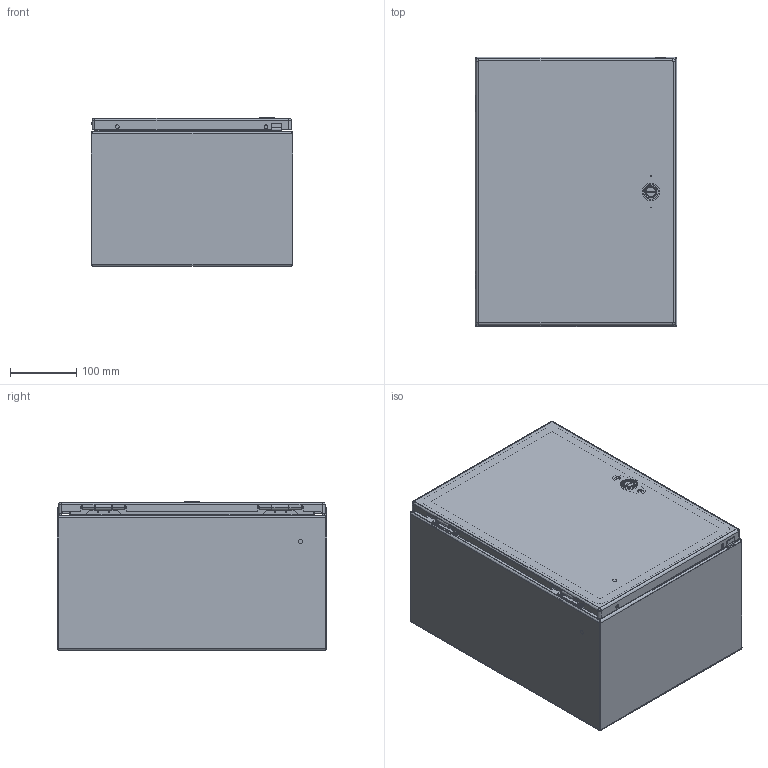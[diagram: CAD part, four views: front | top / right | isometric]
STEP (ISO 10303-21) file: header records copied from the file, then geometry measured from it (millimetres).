
FILE_DESCRIPTION (( 'STEP AP203' ), '1' );
FILE_NAME ('csd16128.STEP', '2012-05-21T19:13:18', ( 'User' ), ( 'Pentair Inc' ), 'SwSTEP 2.0', 'SolidWorks 2010', '' );
FILE_SCHEMA (( 'CONFIG_CONTROL_DESIGN' ));
Length unit declared in the file: inch
Products named in the file (27): csd16128; 87934518; 87934321_default; 23271001_After Weld; 87937917_assy; 87937957_weldment; 87937905; 99401225; 87931362_87931362; 64101001; 64201001; 87541994_Installed Height; 87541995; 64202001; 64210001; 64203001; 87927840_87927840; 87932903; 64138001; 89057560; 87543027; 89076399; 89076193; 89056623; 87929507; 87929767; 87929769_Installed on Pin
Assembly tree (36 placements, depth 4):
  csd16128
    87937917_assy
      87937957_weldment
        99401225
        87937905
        87931362_87931362  x2
      87932903  x2
      64138001  x2
      89057560
      64101001
        64203001
        87927840_87927840
        64202001
        64210001
        87541994_Installed Height
        64201001
        87541995
    89076399  x2
      89056623
      89076193
    87543027  x2
    87929507  x2
      87929769_Installed on Pin
      87929767
    87934518
      23271001_After Weld  x4
      99401225
      87934321_default
Bounding box: 304.8 x 407.13 x 223.9 mm (x, y, z)
Volume: 848962.5 mm3; surface area: 1277913 mm2
Topology: 33 solids, 33 shells, 1667 faces, 4085 edges, 2466 vertices
Faces by surface type: plane 646, cylinder 535, bspline 288, torus 102, cone 88, sphere 8
Entity records: 46159 total; most frequent: CARTESIAN_POINT 16300, ORIENTED_EDGE 5874, DIRECTION 5113, EDGE_CURVE 2937, AXIS2_PLACEMENT_3D 1831, VERTEX_POINT 1802, VECTOR 1451, LINE 1451
